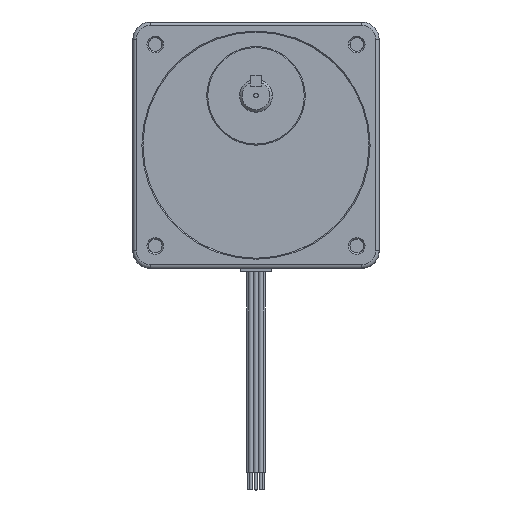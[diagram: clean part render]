
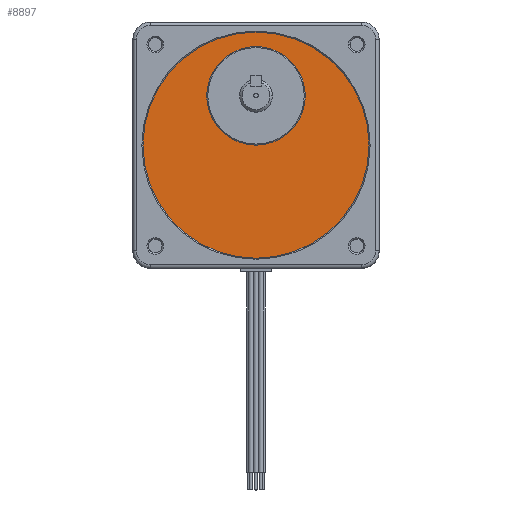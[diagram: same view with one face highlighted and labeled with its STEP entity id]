
A CAD part, top view. The second image highlights one B-rep face of the part: STEP entity #8897.
In plain terms, the highlighted planar face has unit normal (0, 0, 1).
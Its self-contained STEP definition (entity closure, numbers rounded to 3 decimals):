
#1018 = CARTESIAN_POINT ( 'NONE',  ( 0., 18.009, 41.012 ) ) ;
#1022 = CIRCLE ( 'NONE', #1045, 17.996 ) ;
#1036 = DIRECTION ( 'NONE',  ( 1., 0., 0. ) ) ;
#1037 = DIRECTION ( 'NONE',  ( 0., 0., 1. ) ) ;
#1045 = AXIS2_PLACEMENT_3D ( 'NONE', #1018, #1037, #1036 ) ;
#1148 = DIRECTION ( 'NONE',  ( 1., 0., 0. ) ) ;
#1149 = DIRECTION ( 'NONE',  ( 0., 0., 1. ) ) ;
#1150 = AXIS2_PLACEMENT_3D ( 'NONE', #1160, #1149, #1148 ) ;
#1156 = CIRCLE ( 'NONE', #1150, 41.275 ) ;
#1160 = CARTESIAN_POINT ( 'NONE',  ( 0., 0., 41.012 ) ) ;
#1247 = PLANE ( 'NONE',  #1264 ) ;
#1257 = FACE_OUTER_BOUND ( 'NONE', #8810, .T. ) ;
#1264 = AXIS2_PLACEMENT_3D ( 'NONE', #1289, #1288, #1287 ) ;
#1265 = FACE_BOUND ( 'NONE', #8950, .T. ) ;
#1287 = DIRECTION ( 'NONE',  ( 1., 0., 0. ) ) ;
#1288 = DIRECTION ( 'NONE',  ( 0., 0., 1. ) ) ;
#1289 = CARTESIAN_POINT ( 'NONE',  ( 0., 0., 41.012 ) ) ;
#2338 = CARTESIAN_POINT ( 'NONE',  ( 17.996, 18.009, 41.012 ) ) ;
#7570 = EDGE_CURVE ( 'NONE', #9249, #15496, #11832, .T. ) ;
#7674 = EDGE_CURVE ( 'NONE', #7753, #7782, #12111, .T. ) ;
#7753 = VERTEX_POINT ( 'NONE', #12317 ) ;
#7782 = VERTEX_POINT ( 'NONE', #12485 ) ;
#8810 = EDGE_LOOP ( 'NONE', ( #8907, #8899 ) ) ;
#8811 = EDGE_CURVE ( 'NONE', #15496, #9249, #1022, .T. ) ;
#8812 = ORIENTED_EDGE ( 'NONE', *, *, #8811, .F. ) ;
#8857 = ORIENTED_EDGE ( 'NONE', *, *, #7570, .F. ) ;
#8861 = EDGE_CURVE ( 'NONE', #7782, #7753, #1156, .T. ) ;
#8897 = ADVANCED_FACE ( 'NONE', ( #1257, #1265 ), #1247, .T. ) ;
#8899 = ORIENTED_EDGE ( 'NONE', *, *, #7674, .T. ) ;
#8907 = ORIENTED_EDGE ( 'NONE', *, *, #8861, .T. ) ;
#8950 = EDGE_LOOP ( 'NONE', ( #8812, #8857 ) ) ;
#9249 = VERTEX_POINT ( 'NONE', #2338 ) ;
#11818 = DIRECTION ( 'NONE',  ( 1., 0., 0. ) ) ;
#11819 = DIRECTION ( 'NONE',  ( 0., 0., 1. ) ) ;
#11820 = AXIS2_PLACEMENT_3D ( 'NONE', #11830, #11819, #11818 ) ;
#11830 = CARTESIAN_POINT ( 'NONE',  ( 0., 18.009, 41.012 ) ) ;
#11832 = CIRCLE ( 'NONE', #11820, 17.996 ) ;
#12039 = AXIS2_PLACEMENT_3D ( 'NONE', #12145, #12144, #12143 ) ;
#12111 = CIRCLE ( 'NONE', #12039, 41.275 ) ;
#12143 = DIRECTION ( 'NONE',  ( 1., 0., 0. ) ) ;
#12144 = DIRECTION ( 'NONE',  ( 0., 0., 1. ) ) ;
#12145 = CARTESIAN_POINT ( 'NONE',  ( 0., 0., 41.012 ) ) ;
#12317 = CARTESIAN_POINT ( 'NONE',  ( -41.275, 0., 41.012 ) ) ;
#12485 = CARTESIAN_POINT ( 'NONE',  ( 41.275, 0., 41.012 ) ) ;
#15496 = VERTEX_POINT ( 'NONE', #17560 ) ;
#17560 = CARTESIAN_POINT ( 'NONE',  ( -17.996, 18.009, 41.012 ) ) ;
